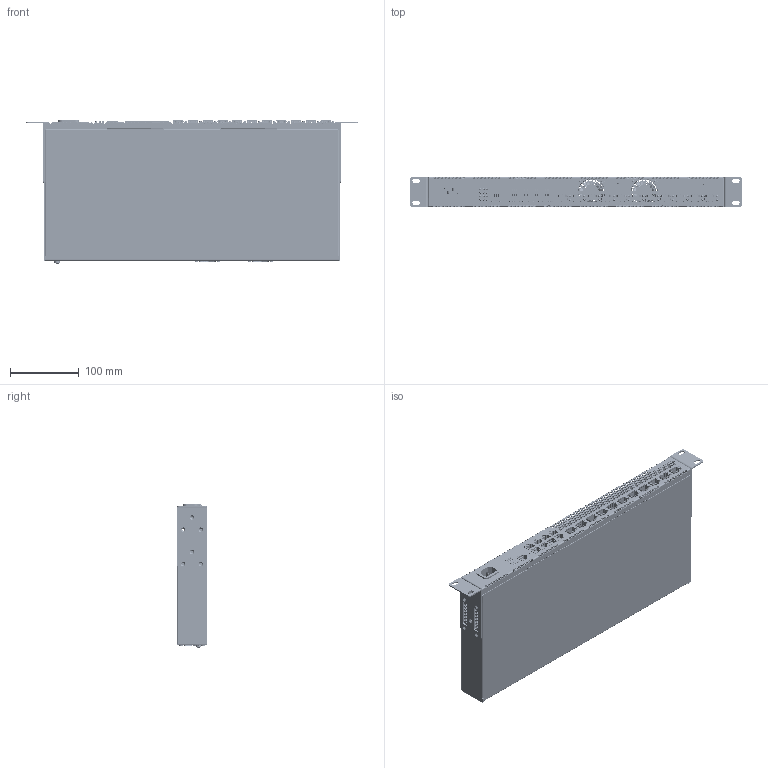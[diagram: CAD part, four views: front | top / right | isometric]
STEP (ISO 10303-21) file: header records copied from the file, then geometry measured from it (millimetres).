
FILE_DESCRIPTION (( 'STEP AP214' ), '1' );
FILE_NAME ('MES2411X AC 斁麧錪.STEP', '2023-08-24T07:56:25', ( '' ), ( '' ), 'SwSTEP 2.0', 'SolidWorks 2021', '' );
FILE_SCHEMA (( 'AUTOMOTIVE_DESIGN' ));
Length unit declared in the file: millimetre
Products named in the file (32): 桕弪赅 25x11,7; 桕弪赅 47x26; SWT42_SWT42_SWT-42-4.3; DIN7985 M3_M3x25; MES2411XAC.1v1(2).19.1.001_MES2411XAC.19.1.001 (2020.08.04); MES2411X AC 斁麧錪; MES2411XAC.1v1(1).19.1.011; PEM CLS-M3-1_PEM CLS-M3-1; FLANGE.01.004.桽惛Eltex; MES2411XAC.1v1(1).19.1.020; DIN934_DIN934 M3; PEM BSO-M3_PEM BSO-M3-6; DIN7985 M4_DIN7985 M4x10; SM7240A (platan); 55307XXF_55307XXF_Dialight 55307XXF v2; DIN6798 ﾀ_DIN 6798A-4.3; MES2411XAC.1v1(1).19.1.010; SC9R1_SC9R1; A1844_A1844_A1844  (model); LOGOTIP_ELTEX_LOGOTIP_ELTEX; M3 countersunk bolt_Screw M3x5; RJ45_2X4_8P8C_WL_RJ45_2X4_8P8C_WL_kingsun 3027s-48831 v2; MES2411XAC.1v1(2).19.1.000_MES2428; RJ45_1X1_SH_RJ45_1X1_SH_3019AB5611(KINSUN); KF0420_KF0420B1SK-R; PEM CLS-M4-1_PEM CLS-M4-1; MW42H30L60_MW42H30L60; SFP_CAGE_1X1_SFP_CAGE_1X1; 珫 mes2411x (1v2); MES2411XAC.1v1(1).19.1.021; tau24(16).19.1.122(V2); Plate spm35-220x12 (3v3)
Assembly tree (118 placements, depth 4):
  MES2411X AC 斁麧錪
    珫 mes2411x (1v2)
      55307XXF_55307XXF_Dialight 55307XXF v2  x11
      A1844_A1844_A1844  (model)  x3
      RJ45_2X4_8P8C_WL_RJ45_2X4_8P8C_WL_kingsun 3027s-48831 v2
      SWT42_SWT42_SWT-42-4.3
      RJ45_1X1_SH_RJ45_1X1_SH_3019AB5611(KINSUN)
      SFP_CAGE_1X1_SFP_CAGE_1X1  x11
    Plate spm35-220x12 (3v3)
      SC9R1_SC9R1
    MES2411XAC.1v1(2).19.1.000_MES2428
      MES2411XAC.1v1(2).19.1.001_MES2411XAC.19.1.001 (2020.08.04)
      MES2411XAC.1v1(1).19.1.010
        MES2411XAC.1v1(1).19.1.011
        PEM BSO-M3_PEM BSO-M3-6  x19
        PEM CLS-M3-1_PEM CLS-M3-1  x18
        PEM CLS-M4-1_PEM CLS-M4-1
      MES2411XAC.1v1(1).19.1.020
        MES2411XAC.1v1(1).19.1.021
        tau24(16).19.1.122(V2)  x5
    KF0420_KF0420B1SK-R  x2
    SM7240A (platan)  x2
    M3 countersunk bolt_Screw M3x5  x12
    DIN934_DIN934 M3  x8
    DIN7985 M3_M3x25  x8
    DIN7985 M4_DIN7985 M4x10
    DIN6798 ﾀ_DIN 6798A-4.3
    桕弪赅 47x26
    桕弪赅 25x11,7
    FLANGE.01.004.桽惛Eltex  x2
  LOGOTIP_ELTEX_LOGOTIP_ELTEX
  MW42H30L60_MW42H30L60
Bounding box: 482.6 x 43.6 x 208.57 mm (x, y, z)
Volume: 340640.3 mm3; surface area: 619843.7 mm2
Topology: 117 solids, 125 shells, 26849 faces, 76101 edges, 49074 vertices
Faces by surface type: plane 16957, cylinder 5638, cone 3552, bspline 538, torus 146, sphere 18
Entity records: 366409 total; most frequent: CARTESIAN_POINT 70170, ORIENTED_EDGE 54560, DIRECTION 49147, EDGE_CURVE 27280, VECTOR 22237, LINE 22237, VERTEX_POINT 17585, AXIS2_PLACEMENT_3D 13455
